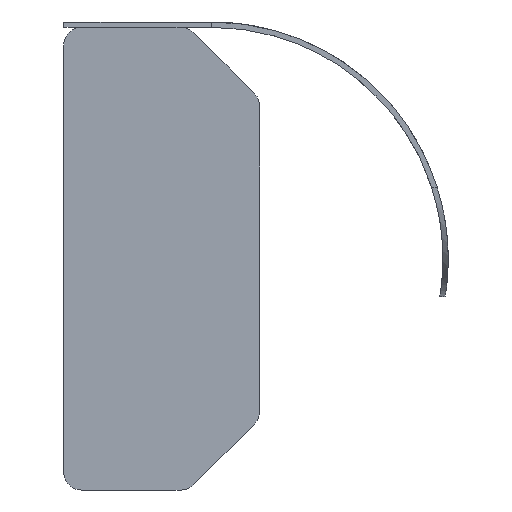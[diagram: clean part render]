
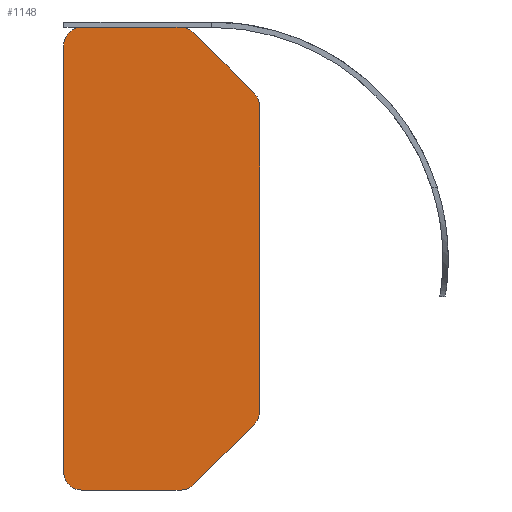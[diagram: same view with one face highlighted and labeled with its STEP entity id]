
A CAD part, left-side view. The second image highlights one B-rep face of the part: STEP entity #1148.
In plain terms, the highlighted planar face has unit normal (-1, 0, 0).
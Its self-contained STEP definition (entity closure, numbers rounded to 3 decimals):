
#1 = CARTESIAN_POINT ( 'NONE',  ( -93.064, 28.569, 26.744 ) ) ;
#10 = EDGE_CURVE ( 'NONE', #1178, #904, #647, .T. ) ;
#54 = LINE ( 'NONE', #814, #96 ) ;
#58 = LINE ( 'NONE', #1085, #1120 ) ;
#62 = B_SPLINE_CURVE_WITH_KNOTS ( 'NONE', 3,
 ( #442, #1047, #240, #1041 ),
 .UNSPECIFIED., .F., .F.,
 ( 4, 4 ),
 ( 0., 1. ),
 .UNSPECIFIED. ) ;
#73 = VECTOR ( 'NONE', #616, 1000. ) ;
#79 = VERTEX_POINT ( 'NONE', #737 ) ;
#81 = EDGE_CURVE ( 'NONE', #572, #487, #253, .T. ) ;
#93 = CARTESIAN_POINT ( 'NONE',  ( -93.064, 28.069, 26.244 ) ) ;
#96 = VECTOR ( 'NONE', #137, 1000. ) ;
#99 = CARTESIAN_POINT ( 'NONE',  ( -93.064, 24.922, 39.098 ) ) ;
#116 = CARTESIAN_POINT ( 'NONE',  ( -93.064, 25.145, 39.244 ) ) ;
#125 = DIRECTION ( 'NONE',  ( 0., 0., -1. ) ) ;
#134 = CARTESIAN_POINT ( 'NONE',  ( -93.064, 28.569, 39.244 ) ) ;
#137 = DIRECTION ( 'NONE',  ( 0., 0.707, -0.707 ) ) ;
#143 = CARTESIAN_POINT ( 'NONE',  ( -93.064, 28.33, 39.19 ) ) ;
#145 = ORIENTED_EDGE ( 'NONE', *, *, #949, .F. ) ;
#146 = LINE ( 'NONE', #422, #73 ) ;
#154 = ORIENTED_EDGE ( 'NONE', *, *, #81, .F. ) ;
#172 = VECTOR ( 'NONE', #641, 1000. ) ;
#174 = CARTESIAN_POINT ( 'NONE',  ( -93.064, 23.215, 37.391 ) ) ;
#192 = CARTESIAN_POINT ( 'NONE',  ( -93.064, 23.215, 28.098 ) ) ;
#220 = ORIENTED_EDGE ( 'NONE', *, *, #255, .F. ) ;
#226 = CARTESIAN_POINT ( 'NONE',  ( -93.064, 28.569, 38.744 ) ) ;
#240 = CARTESIAN_POINT ( 'NONE',  ( -93.064, 25.145, 26.244 ) ) ;
#253 = LINE ( 'NONE', #435, #870 ) ;
#255 = EDGE_CURVE ( 'NONE', #458, #770, #973, .T. ) ;
#256 = CARTESIAN_POINT ( 'NONE',  ( -93.064, 23.069, 37.037 ) ) ;
#299 = CARTESIAN_POINT ( 'NONE',  ( -93.064, 25.015, 39.19 ) ) ;
#320 = CARTESIAN_POINT ( 'NONE',  ( -93.064, 28.515, 39.005 ) ) ;
#331 = B_SPLINE_CURVE_WITH_KNOTS ( 'NONE', 3,
 ( #174, #1033, #1121, #1016 ),
 .UNSPECIFIED., .F., .F.,
 ( 4, 4 ),
 ( 0., 1. ),
 .UNSPECIFIED. ) ;
#338 = ORIENTED_EDGE ( 'NONE', *, *, #821, .F. ) ;
#343 = CARTESIAN_POINT ( 'NONE',  ( -93.064, 28.2, 39.244 ) ) ;
#346 = DIRECTION ( 'NONE',  ( 0., -1., 0. ) ) ;
#372 = CARTESIAN_POINT ( 'NONE',  ( -93.064, 24.922, 26.391 ) ) ;
#406 = EDGE_CURVE ( 'NONE', #487, #79, #627, .T. ) ;
#422 = CARTESIAN_POINT ( 'NONE',  ( -93.064, 25.069, 39.244 ) ) ;
#427 = VERTEX_POINT ( 'NONE', #1 ) ;
#435 = CARTESIAN_POINT ( 'NONE',  ( -93.064, 28.569, 39.244 ) ) ;
#439 = PLANE ( 'NONE',  #728 ) ;
#442 = CARTESIAN_POINT ( 'NONE',  ( -93.064, 24.922, 26.391 ) ) ;
#458 = VERTEX_POINT ( 'NONE', #683 ) ;
#487 = VERTEX_POINT ( 'NONE', #715 ) ;
#501 = CARTESIAN_POINT ( 'NONE',  ( -93.064, 28.569, 38.744 ) ) ;
#509 = DIRECTION ( 'NONE',  ( 0., 1., 0. ) ) ;
#523 = EDGE_CURVE ( 'NONE', #576, #572, #1222, .T. ) ;
#536 = EDGE_CURVE ( 'NONE', #770, #940, #54, .T. ) ;
#572 = VERTEX_POINT ( 'NONE', #980 ) ;
#576 = VERTEX_POINT ( 'NONE', #501 ) ;
#601 = EDGE_CURVE ( 'NONE', #1117, #710, #331, .T. ) ;
#614 = ORIENTED_EDGE ( 'NONE', *, *, #536, .F. ) ;
#616 = DIRECTION ( 'NONE',  ( 0., -0.707, -0.707 ) ) ;
#627 = B_SPLINE_CURVE_WITH_KNOTS ( 'NONE', 3,
 ( #1155, #116, #299, #99 ),
 .UNSPECIFIED., .F., .F.,
 ( 4, 4 ),
 ( 0., 1. ),
 .UNSPECIFIED. ) ;
#641 = DIRECTION ( 'NONE',  ( 0., 1., 0. ) ) ;
#647 = LINE ( 'NONE', #727, #172 ) ;
#656 = CARTESIAN_POINT ( 'NONE',  ( -93.064, 23.123, 28.19 ) ) ;
#665 = EDGE_LOOP ( 'NONE', ( #1215, #154, #1193, #1157, #145, #698, #997, #614, #220, #1011, #884, #338 ) ) ;
#682 = EDGE_CURVE ( 'NONE', #576, #427, #1199, .T. ) ;
#683 = CARTESIAN_POINT ( 'NONE',  ( -93.064, 23.069, 28.451 ) ) ;
#698 = ORIENTED_EDGE ( 'NONE', *, *, #10, .F. ) ;
#710 = VERTEX_POINT ( 'NONE', #256 ) ;
#715 = CARTESIAN_POINT ( 'NONE',  ( -93.064, 25.276, 39.244 ) ) ;
#716 = B_SPLINE_CURVE_WITH_KNOTS ( 'NONE', 3,
 ( #1230, #832, #1134, #960, #925, #729 ),
 .UNSPECIFIED., .F., .F.,
 ( 4, 2, 4 ),
 ( 0., 0.5, 1. ),
 .UNSPECIFIED. ) ;
#727 = CARTESIAN_POINT ( 'NONE',  ( -93.064, 28.569, 26.244 ) ) ;
#728 = AXIS2_PLACEMENT_3D ( 'NONE', #134, #830, #509 ) ;
#729 = CARTESIAN_POINT ( 'NONE',  ( -93.064, 28.569, 26.744 ) ) ;
#737 = CARTESIAN_POINT ( 'NONE',  ( -93.064, 24.922, 39.098 ) ) ;
#750 = DIRECTION ( 'NONE',  ( 0., 0., -1. ) ) ;
#755 = CARTESIAN_POINT ( 'NONE',  ( -93.064, 28.569, 39.244 ) ) ;
#770 = VERTEX_POINT ( 'NONE', #192 ) ;
#814 = CARTESIAN_POINT ( 'NONE',  ( -93.064, 25.069, 26.244 ) ) ;
#821 = EDGE_CURVE ( 'NONE', #79, #1117, #146, .T. ) ;
#830 = DIRECTION ( 'NONE',  ( 1., 0., 0. ) ) ;
#832 = CARTESIAN_POINT ( 'NONE',  ( -93.064, 28.2, 26.244 ) ) ;
#870 = VECTOR ( 'NONE', #346, 1000. ) ;
#879 = EDGE_CURVE ( 'NONE', #710, #458, #58, .T. ) ;
#884 = ORIENTED_EDGE ( 'NONE', *, *, #601, .F. ) ;
#904 = VERTEX_POINT ( 'NONE', #93 ) ;
#908 = FACE_OUTER_BOUND ( 'NONE', #665, .T. ) ;
#909 = VECTOR ( 'NONE', #750, 1000. ) ;
#925 = CARTESIAN_POINT ( 'NONE',  ( -93.064, 28.569, 26.613 ) ) ;
#932 = CARTESIAN_POINT ( 'NONE',  ( -93.064, 23.069, 28.451 ) ) ;
#940 = VERTEX_POINT ( 'NONE', #372 ) ;
#949 = EDGE_CURVE ( 'NONE', #904, #427, #716, .T. ) ;
#960 = CARTESIAN_POINT ( 'NONE',  ( -93.064, 28.515, 26.483 ) ) ;
#973 = B_SPLINE_CURVE_WITH_KNOTS ( 'NONE', 3,
 ( #932, #1034, #656, #1039 ),
 .UNSPECIFIED., .F., .F.,
 ( 4, 4 ),
 ( 0., 1. ),
 .UNSPECIFIED. ) ;
#980 = CARTESIAN_POINT ( 'NONE',  ( -93.064, 28.069, 39.244 ) ) ;
#986 = EDGE_CURVE ( 'NONE', #940, #1178, #62, .T. ) ;
#997 = ORIENTED_EDGE ( 'NONE', *, *, #986, .F. ) ;
#1011 = ORIENTED_EDGE ( 'NONE', *, *, #879, .F. ) ;
#1016 = CARTESIAN_POINT ( 'NONE',  ( -93.064, 23.069, 37.037 ) ) ;
#1033 = CARTESIAN_POINT ( 'NONE',  ( -93.064, 23.123, 37.298 ) ) ;
#1034 = CARTESIAN_POINT ( 'NONE',  ( -93.064, 23.069, 28.32 ) ) ;
#1039 = CARTESIAN_POINT ( 'NONE',  ( -93.064, 23.215, 28.098 ) ) ;
#1041 = CARTESIAN_POINT ( 'NONE',  ( -93.064, 25.276, 26.244 ) ) ;
#1047 = CARTESIAN_POINT ( 'NONE',  ( -93.064, 25.015, 26.298 ) ) ;
#1085 = CARTESIAN_POINT ( 'NONE',  ( -93.064, 23.069, 39.244 ) ) ;
#1087 = CARTESIAN_POINT ( 'NONE',  ( -93.064, 28.069, 39.244 ) ) ;
#1094 = CARTESIAN_POINT ( 'NONE',  ( -93.064, 23.215, 37.391 ) ) ;
#1117 = VERTEX_POINT ( 'NONE', #1094 ) ;
#1120 = VECTOR ( 'NONE', #125, 1000. ) ;
#1121 = CARTESIAN_POINT ( 'NONE',  ( -93.064, 23.069, 37.168 ) ) ;
#1134 = CARTESIAN_POINT ( 'NONE',  ( -93.064, 28.33, 26.298 ) ) ;
#1148 = ADVANCED_FACE ( 'NONE', ( #908 ), #439, .F. ) ;
#1155 = CARTESIAN_POINT ( 'NONE',  ( -93.064, 25.276, 39.244 ) ) ;
#1157 = ORIENTED_EDGE ( 'NONE', *, *, #682, .T. ) ;
#1178 = VERTEX_POINT ( 'NONE', #1209 ) ;
#1193 = ORIENTED_EDGE ( 'NONE', *, *, #523, .F. ) ;
#1196 = CARTESIAN_POINT ( 'NONE',  ( -93.064, 28.569, 38.875 ) ) ;
#1199 = LINE ( 'NONE', #755, #909 ) ;
#1209 = CARTESIAN_POINT ( 'NONE',  ( -93.064, 25.276, 26.244 ) ) ;
#1215 = ORIENTED_EDGE ( 'NONE', *, *, #406, .F. ) ;
#1222 = B_SPLINE_CURVE_WITH_KNOTS ( 'NONE', 3,
 ( #226, #1196, #320, #143, #343, #1087 ),
 .UNSPECIFIED., .F., .F.,
 ( 4, 2, 4 ),
 ( 0., 0.5, 1. ),
 .UNSPECIFIED. ) ;
#1230 = CARTESIAN_POINT ( 'NONE',  ( -93.064, 28.069, 26.244 ) ) ;
